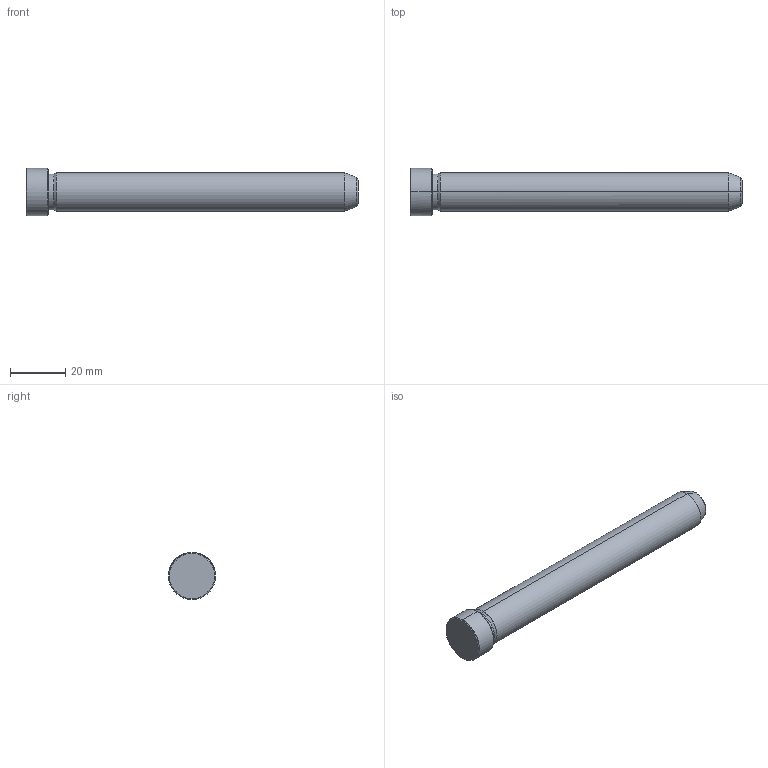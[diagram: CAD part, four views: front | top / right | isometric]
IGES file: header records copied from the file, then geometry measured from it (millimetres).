
Start section: START RECORD GO HERE.
Global section: file name: 549-14X120.igs; native system: DASSAULT SYSTEMES CATIA V5 R20 - www.3ds.com; preprocessor: CATIA Version 5 Release 20 ; author: Utente; organization: NB04-ASUS; date: 20211211.102604; units: millimetre
Bounding box: 120 x 17 x 17 mm (x, y, z)
Surface area: 5709.2 mm2 (no closed solid volume)
Topology: 0 solids, 0 shells, 19 faces, 112 edges, 112 vertices
Faces by surface type: revolution 16, plane 3
